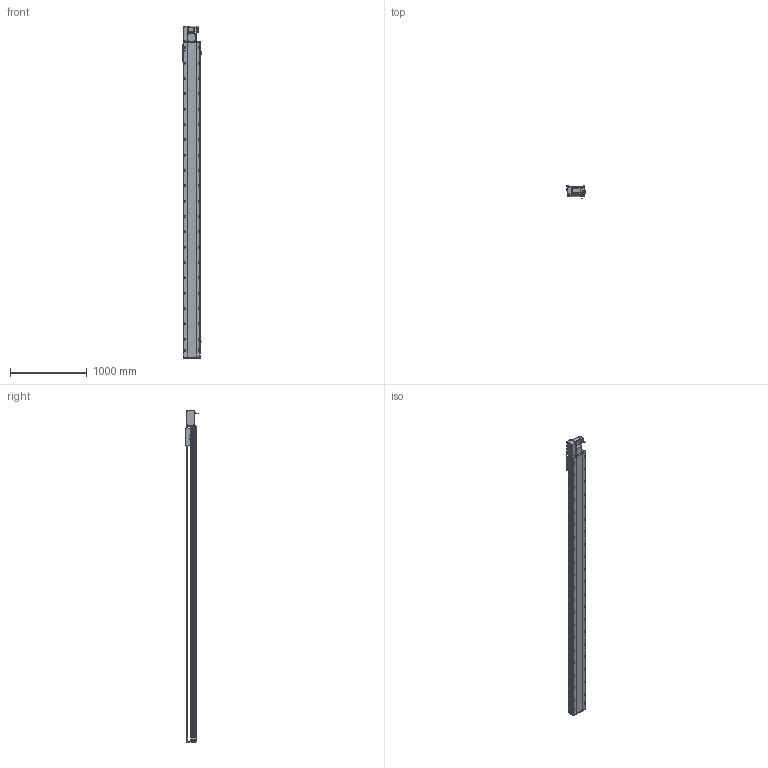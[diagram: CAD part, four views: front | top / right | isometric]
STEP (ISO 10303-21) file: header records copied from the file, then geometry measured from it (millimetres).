
FILE_DESCRIPTION (( 'STEP AP214' ), '1' );
FILE_NAME ('RTB22S-XX-3750-L-M75-C4.STEP', '2025-12-12T03:37:46', ( '' ), ( '' ), 'SwSTEP 2.0', 'SolidWorks 2018', '' );
FILE_SCHEMA (( 'AUTOMOTIVE_DESIGN' ));
Length unit declared in the file: millimetre
Products named in the file (14): RTB22S-L-004賑釱^RTB22S-XX-XX-L-M75-C4; RTB22S-L-々湍釱蚾饜^RTB22S-XX-XX-L-M75-C4; RTB22S-GY-018P^RTB22S-L-々湍釱蚾饜_RTB22S-XX-XX-L-M75-C4; RTH22-GY-013外置感应片^RTB22S-XX-XX-L-M75-C4; 750W萇儂^RTB22S-XX-XX-L-M75-C4; RTB22S-GY-005P^RTB22S-L-々湍釱蚾饜_RTB22S-XX-XX-L-M75-C4; RTB22S-GY-017P^RTB22S-L-々湍釱蚾饜_RTB22S-XX-XX-L-M75-C4; RTB22S-XX-3750-L-M75-C4; RTB22S-GY-014--々湍釱^RTB22S-L-々湍釱蚾饜_RTB22S-XX-XX-L-M75-C4; OMRON EE-SX672 传感器^RTB22S-XX-XX-L-M75-C4; RTB22S-GY-001耜裔^RTB22S-XX-XX-L-M75-C4; RTB22S-GY-007奻裔^RTB22S-XX-XX-L-M75-C4; RTB22S-GY-008-M75--萇儂啣^RTB22S-L-々湍釱蚾饜_RTB22S-XX-XX-L-M75-C4; RTB22S-L-011菁釱^RTB22S-XX-XX-L-M75-C4
Assembly tree (16 placements, depth 3):
  RTB22S-XX-3750-L-M75-C4
    RTB22S-L-011菁釱^RTB22S-XX-XX-L-M75-C4
    750W萇儂^RTB22S-XX-XX-L-M75-C4
    RTB22S-L-004賑釱^RTB22S-XX-XX-L-M75-C4
    OMRON EE-SX672 传感器^RTB22S-XX-XX-L-M75-C4  x3
    RTH22-GY-013外置感应片^RTB22S-XX-XX-L-M75-C4
    RTB22S-GY-007奻裔^RTB22S-XX-XX-L-M75-C4
    RTB22S-GY-001耜裔^RTB22S-XX-XX-L-M75-C4
    RTB22S-L-々湍釱蚾饜^RTB22S-XX-XX-L-M75-C4
      RTB22S-GY-014--々湍釱^RTB22S-L-々湍釱蚾饜_RTB22S-XX-XX-L-M75-C4
      RTB22S-GY-017P^RTB22S-L-々湍釱蚾饜_RTB22S-XX-XX-L-M75-C4  x2
      RTB22S-GY-005P^RTB22S-L-々湍釱蚾饜_RTB22S-XX-XX-L-M75-C4
      RTB22S-GY-008-M75--萇儂啣^RTB22S-L-々湍釱蚾饜_RTB22S-XX-XX-L-M75-C4
      RTB22S-GY-018P^RTB22S-L-々湍釱蚾饜_RTB22S-XX-XX-L-M75-C4
Bounding box: 238.5 x 162.7 x 4329 mm (x, y, z)
Volume: 53327537.2 mm3; surface area: 5419799.2 mm2
Topology: 15 solids, 15 shells, 2217 faces, 6036 edges, 3842 vertices
Faces by surface type: plane 941, cylinder 778, bspline 296, cone 190, sphere 8, torus 4
Entity records: 61322 total; most frequent: CARTESIAN_POINT 17096, ORIENTED_EDGE 8756, DIRECTION 8652, EDGE_CURVE 4378, AXIS2_PLACEMENT_3D 3138, VERTEX_POINT 2846, LINE 2376, VECTOR 2376
